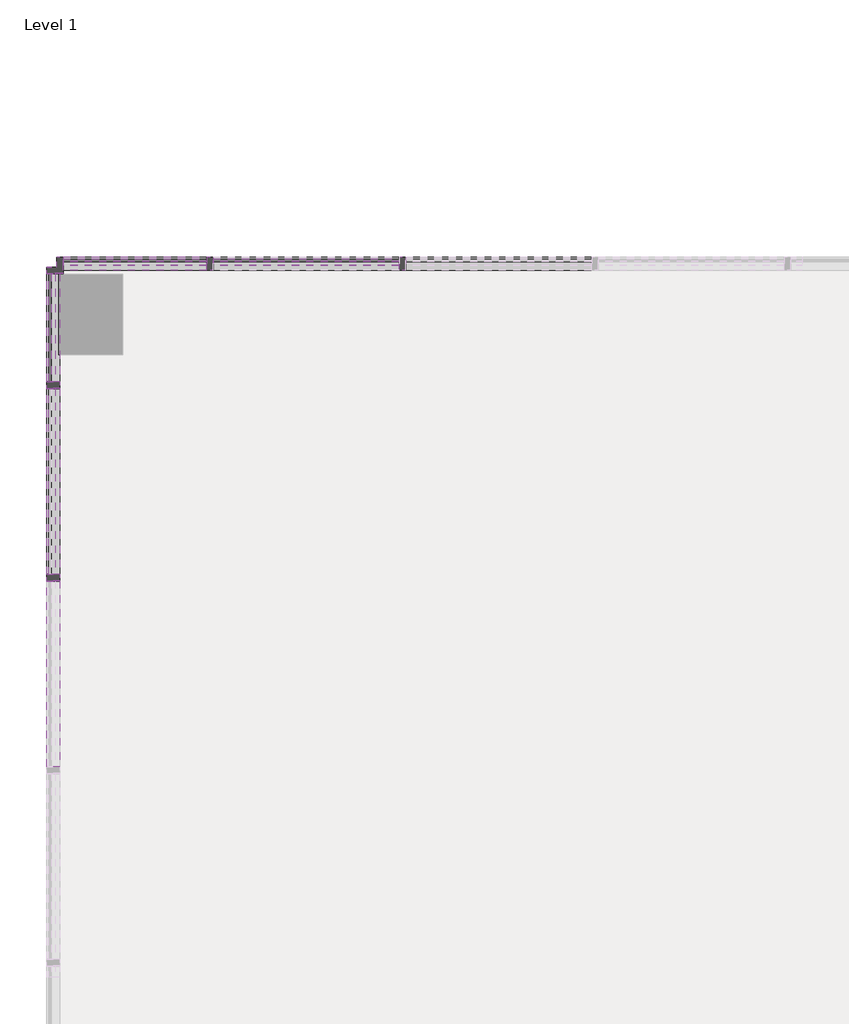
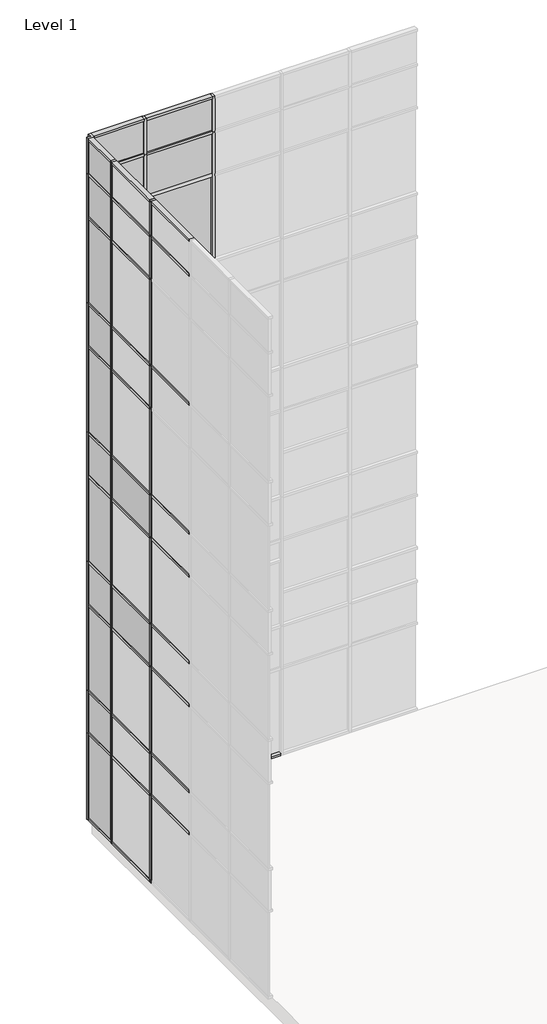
# One storey, part 10 of 23: 86 members, 36 plates.
"""IFC4 building model written with IfcOpenShell, lengths in millimetres."""

from ifc_helpers import new_model, si_unit, origin, place, context, project, spatial, transform, mapped, element, save
from components import member_2b49869a, member_f92b8aa2, member_810865a4, member_f0fea5a5, member_6d5c3e5e, member_9764dd38, member_79ceace6, member_b5f2627a, member_2a656dd3, member_4a582d1b, member_69e02c7a, member_ea83204a, member_2d9278dd, member_12374bc9, system_panel_glazed_14c75400, system_panel_glazed_7d142148, system_panel_glazed_725bf07f, system_panel_glazed_cda0cb40, system_panel_glazed_3870392c, system_panel_solid_5dfe6f83, system_panel_solid_e25e2004, system_panel_solid_b7551183, system_panel_solid_743f3f24, system_panel_solid_cf5446f1, system_panel_solid_9f856546, system_panel_solid_5118485c, system_panel_solid_8dfd6666, system_panel_solid_bf438204

model = new_model("IFC4")

# Units and contexts
model_context = context("Model", 3, world=origin())
ifc_project = project(units=[si_unit("LENGTHUNIT", "METRE", prefix="MILLI")], contexts=[model_context])

# Site, building, storey
site = spatial("IfcSite", under=ifc_project)
building = spatial("IfcBuilding", under=site)
storey = spatial("IfcBuildingStorey", under=building, Name="Level 1", Elevation=0.0)

# Members
placement = place(None, origin())
member_shape = member_2b49869a(model_context)
element("IfcMember", 1, ObjectType="Rectangular Mullion : 2.5\" x 5\" rectangular", at=placement, inside=storey, context=model_context, shape_type="MappedRepresentation", body=[
    mapped(member_shape, transform((-65405.8623649, 10017.7896508, 2438.4), x_axis=(1.0, 0.0, 0.0), y_axis=(0.0, -1.0, 0.0), z_axis=(0.0, 0.0, -1.0))),
])
element("IfcMember", 2, ObjectType="Rectangular Mullion : 2.5\" x 5\" rectangular", at=placement, inside=storey, context=model_context, shape_type="MappedRepresentation", body=[
    mapped(member_shape, transform((-67234.6623649, 10017.7896508, 2438.4), x_axis=(1.0, 0.0, 0.0), y_axis=(0.0, -1.0, 0.0), z_axis=(0.0, 0.0, -1.0))),
])
member_2_shape = member_f92b8aa2(model_context)
element("IfcMember", 3, ObjectType="Rectangular Mullion : 2.5\" x 5\" rectangular", at=placement, inside=storey, context=model_context, shape_type="MappedRepresentation", body=[
    mapped(member_2_shape, transform((-65405.8623649, 10017.7896508, 18288.0), x_axis=(1.0, 0.0, 0.0), y_axis=(0.0, -1.0, 0.0), z_axis=(0.0, 0.0, -1.0))),
])
element("IfcMember", 4, ObjectType="Rectangular Mullion : 2.5\" x 5\" rectangular", at=placement, inside=storey, context=model_context, shape_type="MappedRepresentation", body=[
    mapped(member_2_shape, transform((-67234.6623649, 10017.7896508, 18288.0), x_axis=(1.0, 0.0, 0.0), y_axis=(0.0, -1.0, 0.0), z_axis=(0.0, 0.0, -1.0))),
])
element("IfcMember", 5, ObjectType="Rectangular Mullion : 2.5\" x 5\" rectangular", at=placement, inside=storey, context=model_context, shape_type="MappedRepresentation", body=[
    mapped(member_2_shape, transform((-68724.2599961, 7033.2896508, 18288.0), x_axis=(0.0, 1.0, 0.0), y_axis=(1.0, 0.0, 0.0), z_axis=(0.0, 0.0, -1.0))),
])
element("IfcMember", 6, ObjectType="Rectangular Mullion : 2.5\" x 5\" rectangular", at=placement, inside=storey, context=model_context, shape_type="MappedRepresentation", body=[
    mapped(member_2_shape, transform((-68724.2599961, 8862.0896508, 18288.0), x_axis=(0.0, 1.0, 0.0), y_axis=(1.0, 0.0, 0.0), z_axis=(0.0, 0.0, -1.0))),
])
member_3_shape = member_810865a4(model_context)
element("IfcMember", 7, ObjectType="Rectangular Mullion : 2.5\" x 5\" rectangular", at=placement, inside=storey, context=model_context, shape_type="MappedRepresentation", body=[
    mapped(member_3_shape, transform((-65405.8623649, 10017.7896508, 14630.4), x_axis=(1.0, 0.0, 0.0), y_axis=(0.0, -1.0, 0.0), z_axis=(0.0, 0.0, -1.0))),
])
element("IfcMember", 8, ObjectType="Rectangular Mullion : 2.5\" x 5\" rectangular", at=placement, inside=storey, context=model_context, shape_type="MappedRepresentation", body=[
    mapped(member_3_shape, transform((-65405.8623649, 10017.7896508, 10972.8), x_axis=(1.0, 0.0, 0.0), y_axis=(0.0, -1.0, 0.0), z_axis=(0.0, 0.0, -1.0))),
])
element("IfcMember", 9, ObjectType="Rectangular Mullion : 2.5\" x 5\" rectangular", at=placement, inside=storey, context=model_context, shape_type="MappedRepresentation", body=[
    mapped(member_3_shape, transform((-65405.8623649, 10017.7896508, 7315.2), x_axis=(1.0, 0.0, 0.0), y_axis=(0.0, -1.0, 0.0), z_axis=(0.0, 0.0, -1.0))),
])
element("IfcMember", 10, ObjectType="Rectangular Mullion : 2.5\" x 5\" rectangular", at=placement, inside=storey, context=model_context, shape_type="MappedRepresentation", body=[
    mapped(member_3_shape, transform((-65405.8623649, 10017.7896508, 3657.6), x_axis=(1.0, 0.0, 0.0), y_axis=(0.0, -1.0, 0.0), z_axis=(0.0, 0.0, -1.0))),
])
element("IfcMember", 11, ObjectType="Rectangular Mullion : 2.5\" x 5\" rectangular", at=placement, inside=storey, context=model_context, shape_type="MappedRepresentation", body=[
    mapped(member_3_shape, transform((-67234.6623649, 10017.7896508, 14630.4), x_axis=(1.0, 0.0, 0.0), y_axis=(0.0, -1.0, 0.0), z_axis=(0.0, 0.0, -1.0))),
])
element("IfcMember", 12, ObjectType="Rectangular Mullion : 2.5\" x 5\" rectangular", at=placement, inside=storey, context=model_context, shape_type="MappedRepresentation", body=[
    mapped(member_3_shape, transform((-67234.6623649, 10017.7896508, 10972.8), x_axis=(1.0, 0.0, 0.0), y_axis=(0.0, -1.0, 0.0), z_axis=(0.0, 0.0, -1.0))),
])
element("IfcMember", 13, ObjectType="Rectangular Mullion : 2.5\" x 5\" rectangular", at=placement, inside=storey, context=model_context, shape_type="MappedRepresentation", body=[
    mapped(member_3_shape, transform((-67234.6623649, 10017.7896508, 7315.2), x_axis=(1.0, 0.0, 0.0), y_axis=(0.0, -1.0, 0.0), z_axis=(0.0, 0.0, -1.0))),
])
element("IfcMember", 14, ObjectType="Rectangular Mullion : 2.5\" x 5\" rectangular", at=placement, inside=storey, context=model_context, shape_type="MappedRepresentation", body=[
    mapped(member_3_shape, transform((-67234.6623649, 10017.7896508, 3657.6), x_axis=(1.0, 0.0, 0.0), y_axis=(0.0, -1.0, 0.0), z_axis=(0.0, 0.0, -1.0))),
])
element("IfcMember", 15, ObjectType="Rectangular Mullion : 2.5\" x 5\" rectangular", at=placement, inside=storey, context=model_context, shape_type="MappedRepresentation", body=[
    mapped(member_3_shape, transform((-68724.2599961, 7033.2896508, 3657.6), x_axis=(0.0, 1.0, 0.0), y_axis=(1.0, 0.0, 0.0), z_axis=(0.0, 0.0, -1.0))),
])
element("IfcMember", 16, ObjectType="Rectangular Mullion : 2.5\" x 5\" rectangular", at=placement, inside=storey, context=model_context, shape_type="MappedRepresentation", body=[
    mapped(member_3_shape, transform((-68724.2599961, 8862.0896508, 3657.6), x_axis=(0.0, 1.0, 0.0), y_axis=(1.0, 0.0, 0.0), z_axis=(0.0, 0.0, -1.0))),
])
element("IfcMember", 17, ObjectType="Rectangular Mullion : 2.5\" x 5\" rectangular", at=placement, inside=storey, context=model_context, shape_type="MappedRepresentation", body=[
    mapped(member_3_shape, transform((-68724.2599961, 7033.2896508, 7315.2), x_axis=(0.0, 1.0, 0.0), y_axis=(1.0, 0.0, 0.0), z_axis=(0.0, 0.0, -1.0))),
])
element("IfcMember", 18, ObjectType="Rectangular Mullion : 2.5\" x 5\" rectangular", at=placement, inside=storey, context=model_context, shape_type="MappedRepresentation", body=[
    mapped(member_3_shape, transform((-68724.2599961, 8862.0896508, 7315.2), x_axis=(0.0, 1.0, 0.0), y_axis=(1.0, 0.0, 0.0), z_axis=(0.0, 0.0, -1.0))),
])
element("IfcMember", 19, ObjectType="Rectangular Mullion : 2.5\" x 5\" rectangular", at=placement, inside=storey, context=model_context, shape_type="MappedRepresentation", body=[
    mapped(member_3_shape, transform((-68724.2599961, 7033.2896508, 10972.8), x_axis=(0.0, 1.0, 0.0), y_axis=(1.0, 0.0, 0.0), z_axis=(0.0, 0.0, -1.0))),
])
element("IfcMember", 20, ObjectType="Rectangular Mullion : 2.5\" x 5\" rectangular", at=placement, inside=storey, context=model_context, shape_type="MappedRepresentation", body=[
    mapped(member_3_shape, transform((-68724.2599961, 8862.0896508, 10972.8), x_axis=(0.0, 1.0, 0.0), y_axis=(1.0, 0.0, 0.0), z_axis=(0.0, 0.0, -1.0))),
])
element("IfcMember", 21, ObjectType="Rectangular Mullion : 2.5\" x 5\" rectangular", at=placement, inside=storey, context=model_context, shape_type="MappedRepresentation", body=[
    mapped(member_3_shape, transform((-68724.2599961, 7033.2896508, 14630.4), x_axis=(0.0, 1.0, 0.0), y_axis=(1.0, 0.0, 0.0), z_axis=(0.0, 0.0, -1.0))),
])
element("IfcMember", 22, ObjectType="Rectangular Mullion : 2.5\" x 5\" rectangular", at=placement, inside=storey, context=model_context, shape_type="MappedRepresentation", body=[
    mapped(member_3_shape, transform((-68724.2599961, 8862.0896508, 14630.4), x_axis=(0.0, 1.0, 0.0), y_axis=(1.0, 0.0, 0.0), z_axis=(0.0, 0.0, -1.0))),
])
member_4_shape = member_f0fea5a5(model_context)
element("IfcMember", 23, ObjectType="Rectangular Mullion : 2.5\" x 5\" rectangular", at=placement, inside=storey, context=model_context, shape_type="MappedRepresentation", body=[
    mapped(member_4_shape, transform((-65405.8623649, 10017.7896508, 0.0), x_axis=(1.0, 0.0, 0.0), y_axis=(0.0, -1.0, 0.0), z_axis=(0.0, 0.0, -1.0))),
])
element("IfcMember", 24, ObjectType="Rectangular Mullion : 2.5\" x 5\" rectangular", at=placement, inside=storey, context=model_context, shape_type="MappedRepresentation", body=[
    mapped(member_4_shape, transform((-67234.6623649, 10017.7896508, 0.0), x_axis=(1.0, 0.0, 0.0), y_axis=(0.0, -1.0, 0.0), z_axis=(0.0, 0.0, -1.0))),
])
member_5_shape = member_6d5c3e5e(model_context)
element("IfcMember", 25, ObjectType="Rectangular Mullion : 2.5\" x 5\" rectangular", at=placement, inside=storey, context=model_context, shape_type="MappedRepresentation", body=[
    mapped(member_5_shape, transform((-65437.6123649, 10017.7896508, 19304.0), x_axis=(0.0, 0.0, 1.0), y_axis=(0.0, -1.0, 0.0), z_axis=(1.0, 0.0, 0.0))),
])
element("IfcMember", 26, ObjectType="Rectangular Mullion : 2.5\" x 5\" rectangular", at=placement, inside=storey, context=model_context, shape_type="MappedRepresentation", body=[
    mapped(member_5_shape, transform((-68724.2599961, 7001.5396508, 19304.0), x_axis=(0.0, 0.0, 1.0), y_axis=(1.0, 0.0, 0.0), z_axis=(0.0, 1.0, 0.0))),
])
element("IfcMember", 27, ObjectType="Rectangular Mullion : 2.5\" x 5\" rectangular", at=placement, inside=storey, context=model_context, shape_type="MappedRepresentation", body=[
    mapped(member_5_shape, transform((-68724.2599961, 8830.3396508, 19304.0), x_axis=(0.0, 0.0, 1.0), y_axis=(1.0, 0.0, 0.0), z_axis=(0.0, 1.0, 0.0))),
])
member_6_shape = member_9764dd38(model_context)
element("IfcMember", 28, ObjectType="Rectangular Mullion : 2.5\" x 5\" rectangular", at=placement, inside=storey, context=model_context, shape_type="MappedRepresentation", body=[
    mapped(member_6_shape, transform((-68724.2599961, 8830.3396508, 17068.8), x_axis=(0.0, 0.0, 1.0), y_axis=(1.0, 0.0, 0.0), z_axis=(0.0, 1.0, 0.0))),
])
element("IfcMember", 29, ObjectType="Rectangular Mullion : 2.5\" x 5\" rectangular", at=placement, inside=storey, context=model_context, shape_type="MappedRepresentation", body=[
    mapped(member_6_shape, transform((-68724.2599961, 8830.3396508, 13411.2), x_axis=(0.0, 0.0, 1.0), y_axis=(1.0, 0.0, 0.0), z_axis=(0.0, 1.0, 0.0))),
])
element("IfcMember", 30, ObjectType="Rectangular Mullion : 2.5\" x 5\" rectangular", at=placement, inside=storey, context=model_context, shape_type="MappedRepresentation", body=[
    mapped(member_6_shape, transform((-68724.2599961, 8830.3396508, 9753.6), x_axis=(0.0, 0.0, 1.0), y_axis=(1.0, 0.0, 0.0), z_axis=(0.0, 1.0, 0.0))),
])
element("IfcMember", 31, ObjectType="Rectangular Mullion : 2.5\" x 5\" rectangular", at=placement, inside=storey, context=model_context, shape_type="MappedRepresentation", body=[
    mapped(member_6_shape, transform((-68724.2599961, 7001.5396508, 9753.6), x_axis=(0.0, 0.0, 1.0), y_axis=(1.0, 0.0, 0.0), z_axis=(0.0, 1.0, 0.0))),
])
element("IfcMember", 32, ObjectType="Rectangular Mullion : 2.5\" x 5\" rectangular", at=placement, inside=storey, context=model_context, shape_type="MappedRepresentation", body=[
    mapped(member_6_shape, transform((-68724.2599961, 8830.3396508, 6096.0), x_axis=(0.0, 0.0, 1.0), y_axis=(1.0, 0.0, 0.0), z_axis=(0.0, 1.0, 0.0))),
])
element("IfcMember", 33, ObjectType="Rectangular Mullion : 2.5\" x 5\" rectangular", at=placement, inside=storey, context=model_context, shape_type="MappedRepresentation", body=[
    mapped(member_6_shape, transform((-68724.2599961, 7001.5396508, 6096.0), x_axis=(0.0, 0.0, 1.0), y_axis=(1.0, 0.0, 0.0), z_axis=(0.0, 1.0, 0.0))),
])
element("IfcMember", 34, ObjectType="Rectangular Mullion : 2.5\" x 5\" rectangular", at=placement, inside=storey, context=model_context, shape_type="MappedRepresentation", body=[
    mapped(member_6_shape, transform((-68724.2599961, 8830.3396508, 2470.15), x_axis=(0.0, 0.0, 1.0), y_axis=(1.0, 0.0, 0.0), z_axis=(0.0, 1.0, 0.0))),
])
element("IfcMember", 35, ObjectType="Rectangular Mullion : 2.5\" x 5\" rectangular", at=placement, inside=storey, context=model_context, shape_type="MappedRepresentation", body=[
    mapped(member_6_shape, transform((-68724.2599961, 7001.5396508, 2470.15), x_axis=(0.0, 0.0, 1.0), y_axis=(1.0, 0.0, 0.0), z_axis=(0.0, 1.0, 0.0))),
])
element("IfcMember", 36, ObjectType="Rectangular Mullion : 2.5\" x 5\" rectangular", at=placement, inside=storey, context=model_context, shape_type="MappedRepresentation", body=[
    mapped(member_3_shape, transform((-68724.2599961, 7033.2896508, 0.0), x_axis=(0.0, 1.0, 0.0), y_axis=(1.0, 0.0, 0.0), z_axis=(0.0, 0.0, -1.0))),
])
element("IfcMember", 37, ObjectType="Rectangular Mullion : 2.5\" x 5\" rectangular", at=placement, inside=storey, context=model_context, shape_type="MappedRepresentation", body=[
    mapped(member_3_shape, transform((-68724.2599961, 8862.0896508, 0.0), x_axis=(0.0, 1.0, 0.0), y_axis=(1.0, 0.0, 0.0), z_axis=(0.0, 0.0, -1.0))),
])
element("IfcMember", 38, ObjectType="Rectangular Mullion : 2.5\" x 5\" rectangular", at=placement, inside=storey, context=model_context, shape_type="MappedRepresentation", body=[
    mapped(member_5_shape, transform((-65374.1123649, 10017.7896508, 0.0), x_axis=(0.0, 0.0, -1.0), y_axis=(0.0, -1.0, 0.0), z_axis=(-1.0, 0.0, 0.0))),
])
element("IfcMember", 39, ObjectType="Rectangular Mullion : 2.5\" x 5\" rectangular", at=placement, inside=storey, context=model_context, shape_type="MappedRepresentation", body=[
    mapped(member_5_shape, transform((-67202.9123649, 10017.7896508, 0.0), x_axis=(0.0, 0.0, -1.0), y_axis=(0.0, -1.0, 0.0), z_axis=(-1.0, 0.0, 0.0))),
])
element("IfcMember", 40, ObjectType="Rectangular Mullion : 2.5\" x 5\" rectangular", at=placement, inside=storey, context=model_context, shape_type="MappedRepresentation", body=[
    mapped(member_5_shape, transform((-68724.2599961, 7065.0396508, 0.0), x_axis=(0.0, 0.0, -1.0), y_axis=(1.0, 0.0, 0.0), z_axis=(0.0, -1.0, 0.0))),
])
element("IfcMember", 41, ObjectType="Rectangular Mullion : 2.5\" x 5\" rectangular", at=placement, inside=storey, context=model_context, shape_type="MappedRepresentation", body=[
    mapped(member_6_shape, transform((-65437.6123649, 10017.7896508, 10972.8), x_axis=(0.0, 0.0, 1.0), y_axis=(0.0, -1.0, 0.0), z_axis=(1.0, 0.0, 0.0))),
])
element("IfcMember", 42, ObjectType="Rectangular Mullion : 2.5\" x 5\" rectangular", at=placement, inside=storey, context=model_context, shape_type="MappedRepresentation", body=[
    mapped(member_6_shape, transform((-65437.6123649, 10017.7896508, 7315.2), x_axis=(0.0, 0.0, 1.0), y_axis=(0.0, -1.0, 0.0), z_axis=(1.0, 0.0, 0.0))),
])
element("IfcMember", 43, ObjectType="Rectangular Mullion : 2.5\" x 5\" rectangular", at=placement, inside=storey, context=model_context, shape_type="MappedRepresentation", body=[
    mapped(member_6_shape, transform((-65437.6123649, 10017.7896508, 18288.0), x_axis=(0.0, 0.0, 1.0), y_axis=(0.0, -1.0, 0.0), z_axis=(1.0, 0.0, 0.0))),
])
element("IfcMember", 44, ObjectType="Rectangular Mullion : 2.5\" x 5\" rectangular", at=placement, inside=storey, context=model_context, shape_type="MappedRepresentation", body=[
    mapped(member_6_shape, transform((-65437.6123649, 10017.7896508, 14630.4), x_axis=(0.0, 0.0, 1.0), y_axis=(0.0, -1.0, 0.0), z_axis=(1.0, 0.0, 0.0))),
])
element("IfcMember", 45, ObjectType="Rectangular Mullion : 2.5\" x 5\" rectangular", at=placement, inside=storey, context=model_context, shape_type="MappedRepresentation", body=[
    mapped(member_6_shape, transform((-65437.6123649, 10017.7896508, 3657.6), x_axis=(0.0, 0.0, 1.0), y_axis=(0.0, -1.0, 0.0), z_axis=(1.0, 0.0, 0.0))),
])
element("IfcMember", 46, ObjectType="Rectangular Mullion : 2.5\" x 5\" rectangular", at=placement, inside=storey, context=model_context, shape_type="MappedRepresentation", body=[
    mapped(member_6_shape, transform((-68724.2599961, 7001.5396508, 3657.6), x_axis=(0.0, 0.0, 1.0), y_axis=(1.0, 0.0, 0.0), z_axis=(0.0, 1.0, 0.0))),
])
element("IfcMember", 47, ObjectType="Rectangular Mullion : 2.5\" x 5\" rectangular", at=placement, inside=storey, context=model_context, shape_type="MappedRepresentation", body=[
    mapped(member_6_shape, transform((-68724.2599961, 8830.3396508, 3657.6), x_axis=(0.0, 0.0, 1.0), y_axis=(1.0, 0.0, 0.0), z_axis=(0.0, 1.0, 0.0))),
])
element("IfcMember", 48, ObjectType="Rectangular Mullion : 2.5\" x 5\" rectangular", at=placement, inside=storey, context=model_context, shape_type="MappedRepresentation", body=[
    mapped(member_6_shape, transform((-68724.2599961, 7001.5396508, 7315.2), x_axis=(0.0, 0.0, 1.0), y_axis=(1.0, 0.0, 0.0), z_axis=(0.0, 1.0, 0.0))),
])
element("IfcMember", 49, ObjectType="Rectangular Mullion : 2.5\" x 5\" rectangular", at=placement, inside=storey, context=model_context, shape_type="MappedRepresentation", body=[
    mapped(member_6_shape, transform((-68724.2599961, 8830.3396508, 7315.2), x_axis=(0.0, 0.0, 1.0), y_axis=(1.0, 0.0, 0.0), z_axis=(0.0, 1.0, 0.0))),
])
element("IfcMember", 50, ObjectType="Rectangular Mullion : 2.5\" x 5\" rectangular", at=placement, inside=storey, context=model_context, shape_type="MappedRepresentation", body=[
    mapped(member_6_shape, transform((-68724.2599961, 7001.5396508, 10972.8), x_axis=(0.0, 0.0, 1.0), y_axis=(1.0, 0.0, 0.0), z_axis=(0.0, 1.0, 0.0))),
])
element("IfcMember", 51, ObjectType="Rectangular Mullion : 2.5\" x 5\" rectangular", at=placement, inside=storey, context=model_context, shape_type="MappedRepresentation", body=[
    mapped(member_6_shape, transform((-68724.2599961, 8830.3396508, 10972.8), x_axis=(0.0, 0.0, 1.0), y_axis=(1.0, 0.0, 0.0), z_axis=(0.0, 1.0, 0.0))),
])
element("IfcMember", 52, ObjectType="Rectangular Mullion : 2.5\" x 5\" rectangular", at=placement, inside=storey, context=model_context, shape_type="MappedRepresentation", body=[
    mapped(member_6_shape, transform((-68724.2599961, 7001.5396508, 14630.4), x_axis=(0.0, 0.0, 1.0), y_axis=(1.0, 0.0, 0.0), z_axis=(0.0, 1.0, 0.0))),
])
element("IfcMember", 53, ObjectType="Rectangular Mullion : 2.5\" x 5\" rectangular", at=placement, inside=storey, context=model_context, shape_type="MappedRepresentation", body=[
    mapped(member_6_shape, transform((-68724.2599961, 8830.3396508, 14630.4), x_axis=(0.0, 0.0, 1.0), y_axis=(1.0, 0.0, 0.0), z_axis=(0.0, 1.0, 0.0))),
])
element("IfcMember", 54, ObjectType="Rectangular Mullion : 2.5\" x 5\" rectangular", at=placement, inside=storey, context=model_context, shape_type="MappedRepresentation", body=[
    mapped(member_6_shape, transform((-68724.2599961, 7001.5396508, 18288.0), x_axis=(0.0, 0.0, 1.0), y_axis=(1.0, 0.0, 0.0), z_axis=(0.0, 1.0, 0.0))),
])
element("IfcMember", 55, ObjectType="Rectangular Mullion : 2.5\" x 5\" rectangular", at=placement, inside=storey, context=model_context, shape_type="MappedRepresentation", body=[
    mapped(member_6_shape, transform((-68724.2599961, 8830.3396508, 18288.0), x_axis=(0.0, 0.0, 1.0), y_axis=(1.0, 0.0, 0.0), z_axis=(0.0, 1.0, 0.0))),
])
member_7_shape = member_79ceace6(model_context)
element("IfcMember", 56, ObjectType="Rectangular Mullion : 2.5\" x 5\" rectangular", at=placement, inside=storey, context=model_context, shape_type="MappedRepresentation", body=[
    mapped(member_7_shape, transform((-68724.2599961, 9922.5396508, 19304.0), x_axis=(0.0, 0.0, 1.0), y_axis=(1.0, 0.0, 0.0), z_axis=(0.0, 1.0, 0.0))),
])
element("IfcMember", 57, ObjectType="Rectangular Mullion : 2.5\" x 5\" rectangular", at=placement, inside=storey, context=model_context, shape_type="MappedRepresentation", body=[
    mapped(member_7_shape, transform((-68724.2599961, 8893.8396508, 0.0), x_axis=(0.0, 0.0, -1.0), y_axis=(1.0, 0.0, 0.0), z_axis=(0.0, -1.0, 0.0))),
])
member_8_shape = member_b5f2627a(model_context)
element("IfcMember", 58, ObjectType="Rectangular Mullion : 2.5\" x 5\" rectangular", at=placement, inside=storey, context=model_context, shape_type="MappedRepresentation", body=[
    mapped(member_8_shape, transform((-68724.2599961, 9922.5396508, 3657.6), x_axis=(0.0, 0.0, 1.0), y_axis=(1.0, 0.0, 0.0), z_axis=(0.0, 1.0, 0.0))),
])
element("IfcMember", 59, ObjectType="Rectangular Mullion : 2.5\" x 5\" rectangular", at=placement, inside=storey, context=model_context, shape_type="MappedRepresentation", body=[
    mapped(member_8_shape, transform((-68724.2599961, 9922.5396508, 7315.2), x_axis=(0.0, 0.0, 1.0), y_axis=(1.0, 0.0, 0.0), z_axis=(0.0, 1.0, 0.0))),
])
element("IfcMember", 60, ObjectType="Rectangular Mullion : 2.5\" x 5\" rectangular", at=placement, inside=storey, context=model_context, shape_type="MappedRepresentation", body=[
    mapped(member_8_shape, transform((-68724.2599961, 9922.5396508, 10972.8), x_axis=(0.0, 0.0, 1.0), y_axis=(1.0, 0.0, 0.0), z_axis=(0.0, 1.0, 0.0))),
])
element("IfcMember", 61, ObjectType="Rectangular Mullion : 2.5\" x 5\" rectangular", at=placement, inside=storey, context=model_context, shape_type="MappedRepresentation", body=[
    mapped(member_8_shape, transform((-68724.2599961, 9922.5396508, 14630.4), x_axis=(0.0, 0.0, 1.0), y_axis=(1.0, 0.0, 0.0), z_axis=(0.0, 1.0, 0.0))),
])
element("IfcMember", 62, ObjectType="Rectangular Mullion : 2.5\" x 5\" rectangular", at=placement, inside=storey, context=model_context, shape_type="MappedRepresentation", body=[
    mapped(member_8_shape, transform((-68724.2599961, 9922.5396508, 18288.0), x_axis=(0.0, 0.0, 1.0), y_axis=(1.0, 0.0, 0.0), z_axis=(0.0, 1.0, 0.0))),
])
element("IfcMember", 63, ObjectType="Rectangular Mullion : 2.5\" x 5\" rectangular", at=placement, inside=storey, context=model_context, shape_type="MappedRepresentation", body=[
    mapped(member_8_shape, transform((-68724.2599961, 9922.5396508, 17068.8), x_axis=(0.0, 0.0, 1.0), y_axis=(1.0, 0.0, 0.0), z_axis=(0.0, 1.0, 0.0))),
])
element("IfcMember", 64, ObjectType="Rectangular Mullion : 2.5\" x 5\" rectangular", at=placement, inside=storey, context=model_context, shape_type="MappedRepresentation", body=[
    mapped(member_8_shape, transform((-68724.2599961, 9922.5396508, 13411.2), x_axis=(0.0, 0.0, 1.0), y_axis=(1.0, 0.0, 0.0), z_axis=(0.0, 1.0, 0.0))),
])
element("IfcMember", 65, ObjectType="Rectangular Mullion : 2.5\" x 5\" rectangular", at=placement, inside=storey, context=model_context, shape_type="MappedRepresentation", body=[
    mapped(member_8_shape, transform((-68724.2599961, 9922.5396508, 9753.6), x_axis=(0.0, 0.0, 1.0), y_axis=(1.0, 0.0, 0.0), z_axis=(0.0, 1.0, 0.0))),
])
element("IfcMember", 66, ObjectType="Rectangular Mullion : 2.5\" x 5\" rectangular", at=placement, inside=storey, context=model_context, shape_type="MappedRepresentation", body=[
    mapped(member_8_shape, transform((-68724.2599961, 9922.5396508, 6096.0), x_axis=(0.0, 0.0, 1.0), y_axis=(1.0, 0.0, 0.0), z_axis=(0.0, 1.0, 0.0))),
])
element("IfcMember", 67, ObjectType="Rectangular Mullion : 2.5\" x 5\" rectangular", at=placement, inside=storey, context=model_context, shape_type="MappedRepresentation", body=[
    mapped(member_8_shape, transform((-68724.2599961, 9922.5396508, 2470.15), x_axis=(0.0, 0.0, 1.0), y_axis=(1.0, 0.0, 0.0), z_axis=(0.0, 1.0, 0.0))),
])
member_9_shape = member_2a656dd3(model_context)
element("IfcMember", 68, ObjectType="Rectangular Mullion : 2.5\" x 5\" rectangular", at=placement, inside=storey, context=model_context, shape_type="MappedRepresentation", body=[
    mapped(member_9_shape, transform((-68629.0099961, 10017.7896508, 0.0), x_axis=(0.0, 0.0, -1.0), y_axis=(0.0, -1.0, 0.0), z_axis=(-1.0, 0.0, 0.0))),
])
member_10_shape = member_4a582d1b(model_context)
element("IfcMember", 69, ObjectType="Rectangular Mullion : 2.5\" x 5\" rectangular", at=placement, inside=storey, context=model_context, shape_type="MappedRepresentation", body=[
    mapped(member_10_shape, transform((-67266.4123649, 10017.7896508, 10972.8), x_axis=(0.0, 0.0, 1.0), y_axis=(0.0, -1.0, 0.0), z_axis=(1.0, 0.0, 0.0))),
])
element("IfcMember", 70, ObjectType="Rectangular Mullion : 2.5\" x 5\" rectangular", at=placement, inside=storey, context=model_context, shape_type="MappedRepresentation", body=[
    mapped(member_10_shape, transform((-67266.4123649, 10017.7896508, 14630.4), x_axis=(0.0, 0.0, 1.0), y_axis=(0.0, -1.0, 0.0), z_axis=(1.0, 0.0, 0.0))),
])
element("IfcMember", 71, ObjectType="Rectangular Mullion : 2.5\" x 5\" rectangular", at=placement, inside=storey, context=model_context, shape_type="MappedRepresentation", body=[
    mapped(member_10_shape, transform((-67266.4123649, 10017.7896508, 7315.2), x_axis=(0.0, 0.0, 1.0), y_axis=(0.0, -1.0, 0.0), z_axis=(1.0, 0.0, 0.0))),
])
element("IfcMember", 72, ObjectType="Rectangular Mullion : 2.5\" x 5\" rectangular", at=placement, inside=storey, context=model_context, shape_type="MappedRepresentation", body=[
    mapped(member_10_shape, transform((-67266.4123649, 10017.7896508, 18288.0), x_axis=(0.0, 0.0, 1.0), y_axis=(0.0, -1.0, 0.0), z_axis=(1.0, 0.0, 0.0))),
])
element("IfcMember", 73, ObjectType="Rectangular Mullion : 2.5\" x 5\" rectangular", at=placement, inside=storey, context=model_context, shape_type="MappedRepresentation", body=[
    mapped(member_10_shape, transform((-67266.4123649, 10017.7896508, 3657.6), x_axis=(0.0, 0.0, 1.0), y_axis=(0.0, -1.0, 0.0), z_axis=(1.0, 0.0, 0.0))),
])
element("IfcMember", 74, ObjectType="Rectangular Mullion : 2.5\" x 5\" rectangular", at=placement, inside=storey, context=model_context, shape_type="MappedRepresentation", body=[
    mapped(member_9_shape, transform((-67266.4123649, 10017.7896508, 19304.0), x_axis=(0.0, 0.0, 1.0), y_axis=(0.0, -1.0, 0.0), z_axis=(1.0, 0.0, 0.0))),
])
element("IfcMember", 75, ObjectType="Rectangular Mullion : 2.5\" x 5\" rectangular", at=placement, inside=storey, context=model_context, shape_type="MappedRepresentation", body=[
    mapped(member_10_shape, transform((-67266.4123649, 10017.7896508, 17068.8), x_axis=(0.0, 0.0, 1.0), y_axis=(0.0, -1.0, 0.0), z_axis=(1.0, 0.0, 0.0))),
])
element("IfcMember", 76, ObjectType="Rectangular Mullion : 2.5\" x 5\" rectangular", at=placement, inside=storey, context=model_context, shape_type="MappedRepresentation", body=[
    mapped(member_10_shape, transform((-67266.4123649, 10017.7896508, 13411.2), x_axis=(0.0, 0.0, 1.0), y_axis=(0.0, -1.0, 0.0), z_axis=(1.0, 0.0, 0.0))),
])
element("IfcMember", 77, ObjectType="Rectangular Mullion : 2.5\" x 5\" rectangular", at=placement, inside=storey, context=model_context, shape_type="MappedRepresentation", body=[
    mapped(member_10_shape, transform((-67266.4123649, 10017.7896508, 9753.6), x_axis=(0.0, 0.0, 1.0), y_axis=(0.0, -1.0, 0.0), z_axis=(1.0, 0.0, 0.0))),
])
element("IfcMember", 78, ObjectType="Rectangular Mullion : 2.5\" x 5\" rectangular", at=placement, inside=storey, context=model_context, shape_type="MappedRepresentation", body=[
    mapped(member_10_shape, transform((-67266.4123649, 10017.7896508, 6096.0), x_axis=(0.0, 0.0, 1.0), y_axis=(0.0, -1.0, 0.0), z_axis=(1.0, 0.0, 0.0))),
])
element("IfcMember", 79, ObjectType="Rectangular Mullion : 2.5\" x 5\" rectangular", at=placement, inside=storey, context=model_context, shape_type="MappedRepresentation", body=[
    mapped(member_10_shape, transform((-67266.4123649, 10017.7896508, 2470.15), x_axis=(0.0, 0.0, 1.0), y_axis=(0.0, -1.0, 0.0), z_axis=(1.0, 0.0, 0.0))),
])
member_11_shape = member_69e02c7a(model_context)
element("IfcMember", 80, ObjectType="V Corner Mullion : 5\" V Corner", at=placement, inside=storey, context=model_context, shape_type="MappedRepresentation", body=[
    mapped(member_11_shape, transform((-68724.2599961, 10017.7896508, 19304.0), x_axis=(-1.0, 0.0, 0.0), y_axis=(0.0, -1.0, 0.0), z_axis=(0.0, 0.0, 1.0))),
])
member_12_shape = member_ea83204a(model_context)
element("IfcMember", 81, ObjectType="V Corner Mullion : 5\" V Corner", at=placement, inside=storey, context=model_context, shape_type="MappedRepresentation", body=[
    mapped(member_12_shape, transform((-68724.2599961, 10017.7896508, 2438.4), x_axis=(-1.0, 0.0, 0.0), y_axis=(0.0, -1.0, 0.0), z_axis=(0.0, 0.0, 1.0))),
])
member_13_shape = member_2d9278dd(model_context)
element("IfcMember", 82, ObjectType="V Corner Mullion : 5\" V Corner", at=placement, inside=storey, context=model_context, shape_type="MappedRepresentation", body=[
    mapped(member_13_shape, transform((-68724.2599961, 10017.7896508, 18288.0), x_axis=(-1.0, 0.0, 0.0), y_axis=(0.0, -1.0, 0.0), z_axis=(0.0, 0.0, 1.0))),
])
element("IfcMember", 83, ObjectType="V Corner Mullion : 5\" V Corner", at=placement, inside=storey, context=model_context, shape_type="MappedRepresentation", body=[
    mapped(member_13_shape, transform((-68724.2599961, 10017.7896508, 14630.4), x_axis=(-1.0, 0.0, 0.0), y_axis=(0.0, -1.0, 0.0), z_axis=(0.0, 0.0, 1.0))),
])
element("IfcMember", 84, ObjectType="V Corner Mullion : 5\" V Corner", at=placement, inside=storey, context=model_context, shape_type="MappedRepresentation", body=[
    mapped(member_13_shape, transform((-68724.2599961, 10017.7896508, 10972.8), x_axis=(-1.0, 0.0, 0.0), y_axis=(0.0, -1.0, 0.0), z_axis=(0.0, 0.0, 1.0))),
])
element("IfcMember", 85, ObjectType="V Corner Mullion : 5\" V Corner", at=placement, inside=storey, context=model_context, shape_type="MappedRepresentation", body=[
    mapped(member_13_shape, transform((-68724.2599961, 10017.7896508, 7315.2), x_axis=(-1.0, 0.0, 0.0), y_axis=(0.0, -1.0, 0.0), z_axis=(0.0, 0.0, 1.0))),
])
member_14_shape = member_12374bc9(model_context)
element("IfcMember", 86, ObjectType="V Corner Mullion : 5\" V Corner", at=placement, inside=storey, context=model_context, shape_type="MappedRepresentation", body=[
    mapped(member_14_shape, transform((-68724.2599961, 10017.7896508, 3657.6), x_axis=(-1.0, 0.0, 0.0), y_axis=(0.0, -1.0, 0.0), z_axis=(0.0, 0.0, 1.0))),
])

# Plates
system_panel_glazed_shape = system_panel_glazed_14c75400(model_context)
element("IfcPlate", 87, ObjectType="System Panel : Glazed", at=placement, inside=storey, context=model_context, shape_type="MappedRepresentation", body=[
    mapped(system_panel_glazed_shape, transform((-66320.2623649, 10017.7896508, 14662.15), x_axis=(1.0, 0.0, 0.0), y_axis=(0.0, 1.0, 0.0), z_axis=(0.0, 0.0, 1.0))),
])
element("IfcPlate", 88, ObjectType="System Panel : Glazed", at=placement, inside=storey, context=model_context, shape_type="MappedRepresentation", body=[
    mapped(system_panel_glazed_shape, transform((-66320.2623649, 10017.7896508, 11004.55), x_axis=(1.0, 0.0, 0.0), y_axis=(0.0, 1.0, 0.0), z_axis=(0.0, 0.0, 1.0))),
])
element("IfcPlate", 89, ObjectType="System Panel : Glazed", at=placement, inside=storey, context=model_context, shape_type="MappedRepresentation", body=[
    mapped(system_panel_glazed_shape, transform((-66320.2623649, 10017.7896508, 7346.95), x_axis=(1.0, 0.0, 0.0), y_axis=(0.0, 1.0, 0.0), z_axis=(0.0, 0.0, 1.0))),
])
element("IfcPlate", 90, ObjectType="System Panel : Glazed", at=placement, inside=storey, context=model_context, shape_type="MappedRepresentation", body=[
    mapped(system_panel_glazed_shape, transform((-66320.2623649, 10017.7896508, 63.5), x_axis=(1.0, 0.0, 0.0), y_axis=(0.0, 1.0, 0.0), z_axis=(0.0, 0.0, 1.0))),
])
system_panel_glazed_2_shape = system_panel_glazed_7d142148(model_context)
element("IfcPlate", 91, ObjectType="System Panel : Glazed", at=placement, inside=storey, context=model_context, shape_type="MappedRepresentation", body=[
    mapped(system_panel_glazed_2_shape, transform((-66320.2623649, 10017.7896508, 3689.35), x_axis=(1.0, 0.0, 0.0), y_axis=(0.0, 1.0, 0.0), z_axis=(0.0, 0.0, 1.0))),
])
system_panel_glazed_3_shape = system_panel_glazed_725bf07f(model_context)
element("IfcPlate", 92, ObjectType="System Panel : Glazed", at=placement, inside=storey, context=model_context, shape_type="MappedRepresentation", body=[
    mapped(system_panel_glazed_3_shape, transform((-66320.2623649, 10017.7896508, 4635.5), x_axis=(1.0, 0.0, 0.0), y_axis=(0.0, 1.0, 0.0), z_axis=(0.0, 0.0, 1.0))),
])
system_panel_glazed_4_shape = system_panel_glazed_cda0cb40(model_context)
element("IfcPlate", 93, ObjectType="System Panel : Glazed", at=placement, inside=storey, context=model_context, shape_type="MappedRepresentation", body=[
    mapped(system_panel_glazed_4_shape, transform((-68724.2599961, 9408.1896508, 14662.15), x_axis=(0.0, 1.0, 0.0), y_axis=(-1.0, 0.0, 0.0), z_axis=(0.0, 0.0, 1.0))),
])
element("IfcPlate", 94, ObjectType="System Panel : Glazed", at=placement, inside=storey, context=model_context, shape_type="MappedRepresentation", body=[
    mapped(system_panel_glazed_4_shape, transform((-68724.2599961, 9408.1896508, 11004.55), x_axis=(0.0, 1.0, 0.0), y_axis=(-1.0, 0.0, 0.0), z_axis=(0.0, 0.0, 1.0))),
])
element("IfcPlate", 95, ObjectType="System Panel : Glazed", at=placement, inside=storey, context=model_context, shape_type="MappedRepresentation", body=[
    mapped(system_panel_glazed_4_shape, transform((-68724.2599961, 9408.1896508, 7346.95), x_axis=(0.0, 1.0, 0.0), y_axis=(-1.0, 0.0, 0.0), z_axis=(0.0, 0.0, 1.0))),
])
element("IfcPlate", 96, ObjectType="System Panel : Glazed", at=placement, inside=storey, context=model_context, shape_type="MappedRepresentation", body=[
    mapped(system_panel_glazed_4_shape, transform((-68724.2599961, 9408.1896508, 3689.35), x_axis=(0.0, 1.0, 0.0), y_axis=(-1.0, 0.0, 0.0), z_axis=(0.0, 0.0, 1.0))),
])
element("IfcPlate", 97, ObjectType="System Panel : Glazed", at=placement, inside=storey, context=model_context, shape_type="MappedRepresentation", body=[
    mapped(system_panel_glazed_4_shape, transform((-68724.2599961, 9408.1896508, 63.5), x_axis=(0.0, 1.0, 0.0), y_axis=(-1.0, 0.0, 0.0), z_axis=(0.0, 0.0, 1.0))),
])
system_panel_glazed_5_shape = system_panel_glazed_3870392c(model_context)
element("IfcPlate", 98, ObjectType="System Panel : Glazed", at=placement, inside=storey, context=model_context, shape_type="MappedRepresentation", body=[
    mapped(system_panel_glazed_5_shape, transform((-67947.7111805, 10017.7896508, 14662.15), x_axis=(1.0, 0.0, 0.0), y_axis=(0.0, 1.0, 0.0), z_axis=(0.0, 0.0, 1.0))),
])
element("IfcPlate", 99, ObjectType="System Panel : Glazed", at=placement, inside=storey, context=model_context, shape_type="MappedRepresentation", body=[
    mapped(system_panel_glazed_5_shape, transform((-67947.7111805, 10017.7896508, 11004.55), x_axis=(1.0, 0.0, 0.0), y_axis=(0.0, 1.0, 0.0), z_axis=(0.0, 0.0, 1.0))),
])
element("IfcPlate", 100, ObjectType="System Panel : Glazed", at=placement, inside=storey, context=model_context, shape_type="MappedRepresentation", body=[
    mapped(system_panel_glazed_5_shape, transform((-67947.7111805, 10017.7896508, 7346.95), x_axis=(1.0, 0.0, 0.0), y_axis=(0.0, 1.0, 0.0), z_axis=(0.0, 0.0, 1.0))),
])
element("IfcPlate", 101, ObjectType="System Panel : Glazed", at=placement, inside=storey, context=model_context, shape_type="MappedRepresentation", body=[
    mapped(system_panel_glazed_5_shape, transform((-67947.7111805, 10017.7896508, 3689.35), x_axis=(1.0, 0.0, 0.0), y_axis=(0.0, 1.0, 0.0), z_axis=(0.0, 0.0, 1.0))),
])
element("IfcPlate", 102, ObjectType="System Panel : Glazed", at=placement, inside=storey, context=model_context, shape_type="MappedRepresentation", body=[
    mapped(system_panel_glazed_5_shape, transform((-67947.7111805, 10017.7896508, 63.5), x_axis=(1.0, 0.0, 0.0), y_axis=(0.0, 1.0, 0.0), z_axis=(0.0, 0.0, 1.0))),
])
system_panel_solid_shape = system_panel_solid_5dfe6f83(model_context)
element("IfcPlate", 103, ObjectType="System Panel : Solid", at=placement, inside=storey, context=model_context, shape_type="MappedRepresentation", body=[
    mapped(system_panel_solid_shape, transform((-66320.2623649, 10017.7896508, 18319.75), x_axis=(1.0, 0.0, 0.0), y_axis=(0.0, 1.0, 0.0), z_axis=(0.0, 0.0, 1.0))),
])
system_panel_solid_2_shape = system_panel_solid_e25e2004(model_context)
element("IfcPlate", 104, ObjectType="System Panel : Solid", at=placement, inside=storey, context=model_context, shape_type="MappedRepresentation", body=[
    mapped(system_panel_solid_2_shape, transform((-66320.2623649, 10017.7896508, 17100.55), x_axis=(1.0, 0.0, 0.0), y_axis=(0.0, 1.0, 0.0), z_axis=(0.0, 0.0, 1.0))),
])
element("IfcPlate", 105, ObjectType="System Panel : Solid", at=placement, inside=storey, context=model_context, shape_type="MappedRepresentation", body=[
    mapped(system_panel_solid_2_shape, transform((-66320.2623649, 10017.7896508, 13442.95), x_axis=(1.0, 0.0, 0.0), y_axis=(0.0, 1.0, 0.0), z_axis=(0.0, 0.0, 1.0))),
])
element("IfcPlate", 106, ObjectType="System Panel : Solid", at=placement, inside=storey, context=model_context, shape_type="MappedRepresentation", body=[
    mapped(system_panel_solid_2_shape, transform((-68724.2599961, 7947.6896508, 9785.35), x_axis=(0.0, 1.0, 0.0), y_axis=(-1.0, 0.0, 0.0), z_axis=(0.0, 0.0, 1.0))),
])
element("IfcPlate", 107, ObjectType="System Panel : Solid", at=placement, inside=storey, context=model_context, shape_type="MappedRepresentation", body=[
    mapped(system_panel_solid_2_shape, transform((-68724.2599961, 7947.6896508, 6127.75), x_axis=(0.0, 1.0, 0.0), y_axis=(-1.0, 0.0, 0.0), z_axis=(0.0, 0.0, 1.0))),
])
element("IfcPlate", 108, ObjectType="System Panel : Solid", at=placement, inside=storey, context=model_context, shape_type="MappedRepresentation", body=[
    mapped(system_panel_solid_2_shape, transform((-66320.2623649, 10017.7896508, 9785.35), x_axis=(1.0, 0.0, 0.0), y_axis=(0.0, 1.0, 0.0), z_axis=(0.0, 0.0, 1.0))),
])
element("IfcPlate", 109, ObjectType="System Panel : Solid", at=placement, inside=storey, context=model_context, shape_type="MappedRepresentation", body=[
    mapped(system_panel_solid_2_shape, transform((-66320.2623649, 10017.7896508, 6127.75), x_axis=(1.0, 0.0, 0.0), y_axis=(0.0, 1.0, 0.0), z_axis=(0.0, 0.0, 1.0))),
])
system_panel_solid_3_shape = system_panel_solid_b7551183(model_context)
element("IfcPlate", 110, ObjectType="System Panel : Solid", at=placement, inside=storey, context=model_context, shape_type="MappedRepresentation", body=[
    mapped(system_panel_solid_3_shape, transform((-66320.2623649, 10017.7896508, 2501.9), x_axis=(1.0, 0.0, 0.0), y_axis=(0.0, 1.0, 0.0), z_axis=(0.0, 0.0, 1.0))),
])
system_panel_solid_4_shape = system_panel_solid_743f3f24(model_context)
element("IfcPlate", 111, ObjectType="System Panel : Solid", at=placement, inside=storey, context=model_context, shape_type="MappedRepresentation", body=[
    mapped(system_panel_solid_4_shape, transform((-68724.2599961, 9408.1896508, 18319.75), x_axis=(0.0, 1.0, 0.0), y_axis=(-1.0, 0.0, 0.0), z_axis=(0.0, 0.0, 1.0))),
])
system_panel_solid_5_shape = system_panel_solid_cf5446f1(model_context)
element("IfcPlate", 112, ObjectType="System Panel : Solid", at=placement, inside=storey, context=model_context, shape_type="MappedRepresentation", body=[
    mapped(system_panel_solid_5_shape, transform((-68724.2599961, 9408.1896508, 17100.55), x_axis=(0.0, 1.0, 0.0), y_axis=(-1.0, 0.0, 0.0), z_axis=(0.0, 0.0, 1.0))),
])
element("IfcPlate", 113, ObjectType="System Panel : Solid", at=placement, inside=storey, context=model_context, shape_type="MappedRepresentation", body=[
    mapped(system_panel_solid_5_shape, transform((-68724.2599961, 9408.1896508, 13442.95), x_axis=(0.0, 1.0, 0.0), y_axis=(-1.0, 0.0, 0.0), z_axis=(0.0, 0.0, 1.0))),
])
element("IfcPlate", 114, ObjectType="System Panel : Solid", at=placement, inside=storey, context=model_context, shape_type="MappedRepresentation", body=[
    mapped(system_panel_solid_5_shape, transform((-68724.2599961, 9408.1896508, 9785.35), x_axis=(0.0, 1.0, 0.0), y_axis=(-1.0, 0.0, 0.0), z_axis=(0.0, 0.0, 1.0))),
])
element("IfcPlate", 115, ObjectType="System Panel : Solid", at=placement, inside=storey, context=model_context, shape_type="MappedRepresentation", body=[
    mapped(system_panel_solid_5_shape, transform((-68724.2599961, 9408.1896508, 6127.75), x_axis=(0.0, 1.0, 0.0), y_axis=(-1.0, 0.0, 0.0), z_axis=(0.0, 0.0, 1.0))),
])
system_panel_solid_6_shape = system_panel_solid_9f856546(model_context)
element("IfcPlate", 116, ObjectType="System Panel : Solid", at=placement, inside=storey, context=model_context, shape_type="MappedRepresentation", body=[
    mapped(system_panel_solid_6_shape, transform((-68724.2599961, 9408.1896508, 2501.9), x_axis=(0.0, 1.0, 0.0), y_axis=(-1.0, 0.0, 0.0), z_axis=(0.0, 0.0, 1.0))),
])
system_panel_solid_7_shape = system_panel_solid_5118485c(model_context)
element("IfcPlate", 117, ObjectType="System Panel : Solid", at=placement, inside=storey, context=model_context, shape_type="MappedRepresentation", body=[
    mapped(system_panel_solid_7_shape, transform((-67947.7111805, 10017.7896508, 18319.75), x_axis=(1.0, 0.0, 0.0), y_axis=(0.0, 1.0, 0.0), z_axis=(0.0, 0.0, 1.0))),
])
system_panel_solid_8_shape = system_panel_solid_8dfd6666(model_context)
element("IfcPlate", 118, ObjectType="System Panel : Solid", at=placement, inside=storey, context=model_context, shape_type="MappedRepresentation", body=[
    mapped(system_panel_solid_8_shape, transform((-67947.7111805, 10017.7896508, 17100.55), x_axis=(1.0, 0.0, 0.0), y_axis=(0.0, 1.0, 0.0), z_axis=(0.0, 0.0, 1.0))),
])
element("IfcPlate", 119, ObjectType="System Panel : Solid", at=placement, inside=storey, context=model_context, shape_type="MappedRepresentation", body=[
    mapped(system_panel_solid_8_shape, transform((-67947.7111805, 10017.7896508, 13442.95), x_axis=(1.0, 0.0, 0.0), y_axis=(0.0, 1.0, 0.0), z_axis=(0.0, 0.0, 1.0))),
])
element("IfcPlate", 120, ObjectType="System Panel : Solid", at=placement, inside=storey, context=model_context, shape_type="MappedRepresentation", body=[
    mapped(system_panel_solid_8_shape, transform((-67947.7111805, 10017.7896508, 9785.35), x_axis=(1.0, 0.0, 0.0), y_axis=(0.0, 1.0, 0.0), z_axis=(0.0, 0.0, 1.0))),
])
element("IfcPlate", 121, ObjectType="System Panel : Solid", at=placement, inside=storey, context=model_context, shape_type="MappedRepresentation", body=[
    mapped(system_panel_solid_8_shape, transform((-67947.7111805, 10017.7896508, 6127.75), x_axis=(1.0, 0.0, 0.0), y_axis=(0.0, 1.0, 0.0), z_axis=(0.0, 0.0, 1.0))),
])
system_panel_solid_9_shape = system_panel_solid_bf438204(model_context)
element("IfcPlate", 122, ObjectType="System Panel : Solid", at=placement, inside=storey, context=model_context, shape_type="MappedRepresentation", body=[
    mapped(system_panel_solid_9_shape, transform((-67947.7111805, 10017.7896508, 2501.9), x_axis=(1.0, 0.0, 0.0), y_axis=(0.0, 1.0, 0.0), z_axis=(0.0, 0.0, 1.0))),
])

save(model, "model.ifc")
